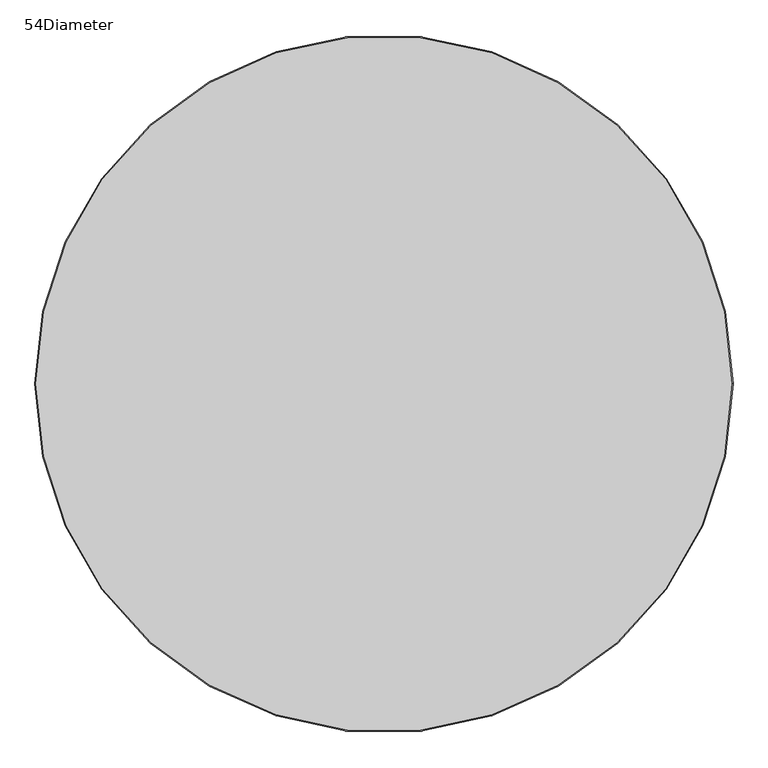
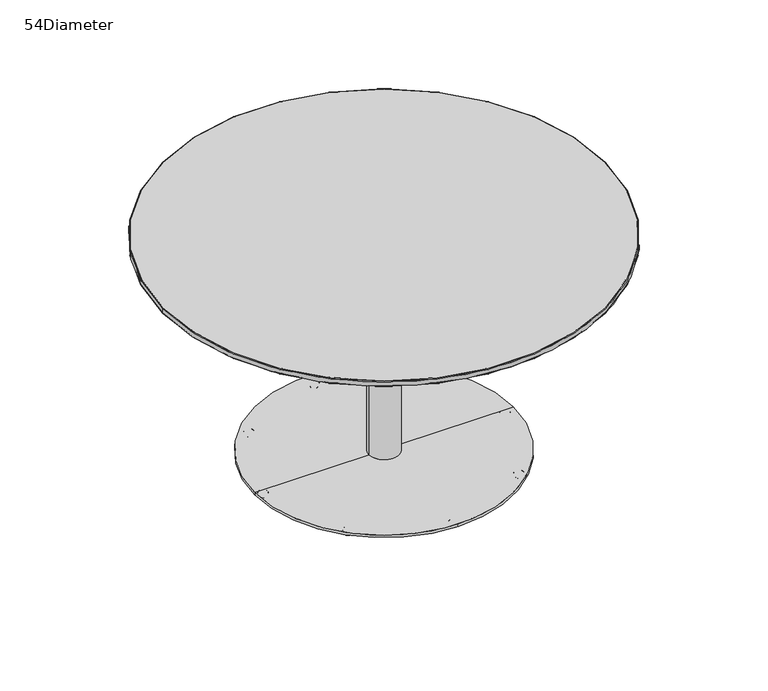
"""IFC4 building model written with IfcOpenShell, lengths in millimetres: furniture geometry, Coalesse_AM_Table_Conference_Montara650_WorkHeight_Round : 54Diameter."""

from ifc_helpers import new_model, si_unit, point, frame, origin, origin_with_axes, origin_2d, place, context, project, spatial, polyline, circle_curve, ellipse_curve, trimmed, segment, composite_curve, outline, extrude, source, transform, mapped, element, save
from ifc_brep_helpers import plane_surface, cylinder_surface, revolved_surface, advanced_brep


def furniture_54diameter_4dd13a8e(model_context):
    return source(origin(), model_context, "Body", "SolidModel", [
        advanced_brep(
        [(265.1850578, -265.1850578, 0.0), (272.5277002, -272.5277002, 0.0), (257.8424153, -257.8424153, 0.0), (273.0742024, -273.0742024, 0.5718943), (257.2959132, -257.2959132, 0.5718943), (275.3733015, -275.3733015, 11.2068005), (254.9968141, -254.9968141, 11.2068005), (274.9582806, -274.9582806, 11.9999882), (255.4118349, -255.4118349, 11.9999882), (265.1850578, -265.1850578, 11.9999882)],
        [
            (0, 1),
            (1, 2, circle_curve(frame((265.1850578, -265.1850578, 0.0), z_axis=(0.0, 0.0, -1.0), x_axis=(0.7071067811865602, -0.7071067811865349, 0.0)), 10.3840645)),
            (2, 0),
            (2, 1, circle_curve(frame((265.1850578, -265.1850578, 0.0), z_axis=(0.0, 0.0, -1.0), x_axis=(0.7071067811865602, -0.7071067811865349, 0.0)), 10.3840645)),
            (1, 3, circle_curve(frame((272.5277002, -272.5277002, 0.8081846), z_axis=(-0.7071067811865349, -0.7071067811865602, 0.0), x_axis=(0.7071067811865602, -0.7071067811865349, 0.0)), 0.8081846)),
            (3, 4, circle_curve(frame((265.1850578, -265.1850578, 0.5718943), z_axis=(0.0, 0.0, -1.0), x_axis=(0.7071067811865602, -0.7071067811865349, 0.0)), 11.1569353)),
            (4, 2, circle_curve(frame((257.8424153, -257.8424153, 0.8081846), z_axis=(-0.7071067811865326, -0.7071067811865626, 0.0), x_axis=(-0.7071067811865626, 0.7071067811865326, 0.0)), 0.8081846)),
            (4, 3, circle_curve(frame((265.1850578, -265.1850578, 0.5718943), z_axis=(0.0, 0.0, -1.0), x_axis=(0.7071067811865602, -0.7071067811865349, 0.0)), 11.1569353)),
            (3, 5),
            (5, 6, circle_curve(frame((265.1850578, -265.1850578, 11.2068005), z_axis=(0.0, 0.0, -1.0), x_axis=(0.7071067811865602, -0.7071067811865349, 0.0)), 14.4083524)),
            (6, 4),
            (6, 5, circle_curve(frame((265.1850578, -265.1850578, 11.2068005), z_axis=(0.0, 0.0, -1.0), x_axis=(0.7071067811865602, -0.7071067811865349, 0.0)), 14.4083524)),
            (5, 7, circle_curve(frame((274.9582806, -274.9582806, 11.3862424), z_axis=(-0.7071067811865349, -0.7071067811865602, 0.0), x_axis=(0.7071067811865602, -0.7071067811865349, 0.0)), 0.6137458)),
            (7, 8, circle_curve(frame((265.1850578, -265.1850578, 11.9999882), z_axis=(0.0, 0.0, -1.0), x_axis=(0.7071067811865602, -0.7071067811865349, 0.0)), 13.8214243)),
            (8, 6, circle_curve(frame((255.4118349, -255.4118349, 11.3862424), z_axis=(-0.7071067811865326, -0.7071067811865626, 0.0), x_axis=(-0.7071067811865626, 0.7071067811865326, 0.0)), 0.6137458)),
            (8, 7, circle_curve(frame((265.1850578, -265.1850578, 11.9999882), z_axis=(0.0, 0.0, -1.0), x_axis=(0.7071067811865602, -0.7071067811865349, 0.0)), 13.8214243)),
            (7, 9),
            (9, 8),
        ],
        [
            plane_surface(frame((265.1850578, -265.1850578, 0.0), z_axis=(0.0, 0.0, -1.0000000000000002), x_axis=(0.7071067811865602, -0.7071067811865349, 0.0))),
            revolved_surface(trimmed(ellipse_curve(frame((272.5277002, -272.5277002, 0.8081846), z_axis=(0.7071067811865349, 0.7071067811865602, 0.0), x_axis=(0.7071067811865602, -0.7071067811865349, 0.0)), 0.8081846, 0.8081846), [point((273.0742024, -273.0742024, 0.5718943))], [point((272.5277002, -272.5277002, 0.0))], True, "CARTESIAN"), (265.1850578, -265.1850578, 12.2086845), (0.0, 0.0, -1.0)),
            revolved_surface(polyline([(275.3733015, -275.3733015, 11.2068005), (273.0742024, -273.0742024, 0.5718943)]), (265.1850578, -265.1850578, 12.2086845), (0.0, 0.0, -1.0)),
            revolved_surface(trimmed(ellipse_curve(frame((274.9582806, -274.9582806, 11.3862424), z_axis=(0.7071067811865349, 0.7071067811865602, 0.0), x_axis=(0.7071067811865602, -0.7071067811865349, 0.0)), 0.6137458, 0.6137458), [point((274.9582806, -274.9582806, 11.9999882))], [point((275.3733015, -275.3733015, 11.2068005))], True, "CARTESIAN"), (265.1850578, -265.1850578, 12.2086845), (0.0, 0.0, -1.0)),
            plane_surface(frame((265.1850578, -265.1850578, 11.9999882), z_axis=(0.0, 0.0, 1.0000000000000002), x_axis=(0.7071067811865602, -0.7071067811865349, 0.0))),
        ],
        [
            (0, [[1, 2, 3]]),
            (0, [[-3, 4, -1]]),
            (1, [[-2, 5, 6, 7]]),
            (1, [[-4, -7, 8, -5]]),
            (2, [[-6, 9, 10, 11]]),
            (2, [[-8, -11, 12, -9]]),
            (3, [[-10, 13, 14, 15]]),
            (3, [[-12, -15, 16, -13]]),
            (4, [[-14, 17, 18]]),
            (4, [[-16, -18, -17]]),
        ],
    ),
        advanced_brep(
        [(-257.8424153, -257.8424153, 0.0), (-272.5277002, -272.5277002, 0.0), (-265.1850578, -265.1850578, 0.0), (-257.2959132, -257.2959132, 0.5718943), (-273.0742024, -273.0742024, 0.5718943), (-254.9968141, -254.9968141, 11.2068005), (-275.3733015, -275.3733015, 11.2068005), (-255.4118349, -255.4118349, 11.9999882), (-274.9582806, -274.9582806, 11.9999882), (-265.1850578, -265.1850578, 11.9999882)],
        [
            (0, 1, circle_curve(frame((-265.1850578, -265.1850578, 0.0), z_axis=(0.0, 0.0, -1.0), x_axis=(-0.7071067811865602, -0.7071067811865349, 0.0)), 10.3840645)),
            (1, 2),
            (2, 0),
            (1, 0, circle_curve(frame((-265.1850578, -265.1850578, 0.0), z_axis=(0.0, 0.0, -1.0), x_axis=(-0.7071067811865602, -0.7071067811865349, 0.0)), 10.3840645)),
            (3, 4, circle_curve(frame((-265.1850578, -265.1850578, 0.5718943), z_axis=(0.0, 0.0, -1.0), x_axis=(-0.7071067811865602, -0.7071067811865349, 0.0)), 11.1569353)),
            (4, 1, circle_curve(frame((-272.5277002, -272.5277002, 0.8081846), z_axis=(0.7071067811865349, -0.7071067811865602, 0.0), x_axis=(-0.7071067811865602, -0.7071067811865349, 0.0)), 0.8081846)),
            (0, 3, circle_curve(frame((-257.8424153, -257.8424153, 0.8081846), z_axis=(0.7071067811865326, -0.7071067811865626, 0.0), x_axis=(0.7071067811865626, 0.7071067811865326, 0.0)), 0.8081846)),
            (4, 3, circle_curve(frame((-265.1850578, -265.1850578, 0.5718943), z_axis=(0.0, 0.0, -1.0), x_axis=(-0.7071067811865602, -0.7071067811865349, 0.0)), 11.1569353)),
            (5, 6, circle_curve(frame((-265.1850578, -265.1850578, 11.2068005), z_axis=(0.0, 0.0, -1.0), x_axis=(-0.7071067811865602, -0.7071067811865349, 0.0)), 14.4083524)),
            (6, 4),
            (3, 5),
            (6, 5, circle_curve(frame((-265.1850578, -265.1850578, 11.2068005), z_axis=(0.0, 0.0, -1.0), x_axis=(-0.7071067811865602, -0.7071067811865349, 0.0)), 14.4083524)),
            (7, 8, circle_curve(frame((-265.1850578, -265.1850578, 11.9999882), z_axis=(0.0, 0.0, -1.0), x_axis=(-0.7071067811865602, -0.7071067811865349, 0.0)), 13.8214243)),
            (8, 6, circle_curve(frame((-274.9582806, -274.9582806, 11.3862424), z_axis=(0.7071067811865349, -0.7071067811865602, 0.0), x_axis=(-0.7071067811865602, -0.7071067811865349, 0.0)), 0.6137458)),
            (5, 7, circle_curve(frame((-255.4118349, -255.4118349, 11.3862424), z_axis=(0.7071067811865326, -0.7071067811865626, 0.0), x_axis=(0.7071067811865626, 0.7071067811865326, 0.0)), 0.6137458)),
            (8, 7, circle_curve(frame((-265.1850578, -265.1850578, 11.9999882), z_axis=(0.0, 0.0, -1.0), x_axis=(-0.7071067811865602, -0.7071067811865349, 0.0)), 13.8214243)),
            (9, 8),
            (7, 9),
        ],
        [
            plane_surface(frame((-265.1850578, -265.1850578, 0.0), z_axis=(0.0, 0.0, -1.0000000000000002), x_axis=(-0.7071067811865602, -0.7071067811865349, 0.0))),
            revolved_surface(trimmed(ellipse_curve(frame((-272.5277002, -272.5277002, 0.8081846), z_axis=(-0.7071067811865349, 0.7071067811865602, 0.0), x_axis=(-0.7071067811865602, -0.7071067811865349, 0.0)), 0.8081846, 0.8081846), [point((-272.5277002, -272.5277002, 0.0))], [point((-273.0742024, -273.0742024, 0.5718943))], True, "CARTESIAN"), (-265.1850578, -265.1850578, 12.2086845), (0.0, 0.0, 1.0)),
            revolved_surface(polyline([(-273.0742024, -273.0742024, 0.5718943), (-275.3733015, -275.3733015, 11.2068005)]), (-265.1850578, -265.1850578, 12.2086845), (0.0, 0.0, 1.0)),
            revolved_surface(trimmed(ellipse_curve(frame((-274.9582806, -274.9582806, 11.3862424), z_axis=(-0.7071067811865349, 0.7071067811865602, 0.0), x_axis=(-0.7071067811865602, -0.7071067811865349, 0.0)), 0.6137458, 0.6137458), [point((-275.3733015, -275.3733015, 11.2068005))], [point((-274.9582806, -274.9582806, 11.9999882))], True, "CARTESIAN"), (-265.1850578, -265.1850578, 12.2086845), (0.0, 0.0, 1.0)),
            plane_surface(frame((-265.1850578, -265.1850578, 11.9999882), z_axis=(0.0, 0.0, 1.0000000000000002), x_axis=(-0.7071067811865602, -0.7071067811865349, 0.0))),
        ],
        [
            (0, [[1, 2, 3]]),
            (0, [[4, -3, -2]]),
            (1, [[5, 6, -1, 7]]),
            (1, [[8, -7, -4, -6]]),
            (2, [[9, 10, -5, 11]]),
            (2, [[12, -11, -8, -10]]),
            (3, [[13, 14, -9, 15]]),
            (3, [[16, -15, -12, -14]]),
            (4, [[17, -13, 18]]),
            (4, [[-18, -16, -17]]),
        ],
    ),
        advanced_brep(
        [(0.0, -364.6442407, 0.0), (0.0, -385.4123697, 0.0), (0.0, -375.0283052, 0.0), (0.0, -363.87137, 0.5718943), (0.0, -386.1852405, 0.5718943), (0.0, -360.6199529, 11.2068005), (0.0, -389.4366576, 11.2068005), (0.0, -361.2068809, 11.9999882), (0.0, -388.8497296, 11.9999882), (0.0, -375.0283052, 11.9999882)],
        [
            (0, 1, circle_curve(frame((0.0, -375.0283052, 0.0), z_axis=(0.0, 0.0, -1.0), x_axis=(0.0, -1.0, 0.0)), 10.3840645)),
            (1, 2),
            (2, 0),
            (1, 0, circle_curve(frame((0.0, -375.0283052, 0.0), z_axis=(0.0, 0.0, -1.0), x_axis=(0.0, -1.0, 0.0)), 10.3840645)),
            (3, 4, circle_curve(frame((0.0, -375.0283052, 0.5718943), z_axis=(0.0, 0.0, -1.0), x_axis=(0.0, -1.0, 0.0)), 11.1569353)),
            (4, 1, circle_curve(frame((0.0, -385.4123697, 0.8081846), z_axis=(1.0, 0.0, 0.0), x_axis=(0.0, -1.0, 0.0)), 0.8081846)),
            (0, 3, circle_curve(frame((0.0, -364.6442407, 0.8081846), z_axis=(1.0, 0.0, 0.0), x_axis=(0.0, 1.0, 0.0)), 0.8081846)),
            (4, 3, circle_curve(frame((0.0, -375.0283052, 0.5718943), z_axis=(0.0, 0.0, -1.0), x_axis=(0.0, -1.0, 0.0)), 11.1569353)),
            (5, 6, circle_curve(frame((0.0, -375.0283052, 11.2068005), z_axis=(0.0, 0.0, -1.0), x_axis=(0.0, -1.0, 0.0)), 14.4083524)),
            (6, 4),
            (3, 5),
            (6, 5, circle_curve(frame((0.0, -375.0283052, 11.2068005), z_axis=(0.0, 0.0, -1.0), x_axis=(0.0, -1.0, 0.0)), 14.4083524)),
            (7, 8, circle_curve(frame((0.0, -375.0283052, 11.9999882), z_axis=(0.0, 0.0, -1.0), x_axis=(0.0, -1.0, 0.0)), 13.8214243)),
            (8, 6, circle_curve(frame((0.0, -388.8497296, 11.3862424), z_axis=(1.0, 0.0, 0.0), x_axis=(0.0, -1.0, 0.0)), 0.6137458)),
            (5, 7, circle_curve(frame((0.0, -361.2068809, 11.3862424), z_axis=(1.0, 0.0, 0.0), x_axis=(0.0, 1.0, 0.0)), 0.6137458)),
            (8, 7, circle_curve(frame((0.0, -375.0283052, 11.9999882), z_axis=(0.0, 0.0, -1.0), x_axis=(0.0, -1.0, 0.0)), 13.8214243)),
            (9, 8),
            (7, 9),
        ],
        [
            plane_surface(frame((0.0, -375.0283052, 0.0), z_axis=(0.0, 0.0, -1.0), x_axis=(0.0, -1.0, 0.0))),
            revolved_surface(trimmed(ellipse_curve(frame((0.0, -385.4123697, 0.8081846), z_axis=(-1.0, 0.0, 0.0), x_axis=(0.0, -1.0, 0.0)), 0.8081846, 0.8081846), [point((0.0, -385.4123697, 0.0))], [point((0.0, -386.1852405, 0.5718943))], True, "CARTESIAN"), (0.0, -375.0283052, 12.2086845), (0.0, 0.0, 1.0)),
            revolved_surface(polyline([(0.0, -386.1852405, 0.5718943), (0.0, -389.4366576, 11.2068005)]), (0.0, -375.0283052, 12.2086845), (0.0, 0.0, 1.0)),
            revolved_surface(trimmed(ellipse_curve(frame((0.0, -388.8497296, 11.3862424), z_axis=(-1.0, 0.0, 0.0), x_axis=(0.0, -1.0, 0.0)), 0.6137458, 0.6137458), [point((0.0, -389.4366576, 11.2068005))], [point((0.0, -388.8497296, 11.9999882))], True, "CARTESIAN"), (0.0, -375.0283052, 12.2086845), (0.0, 0.0, 1.0)),
            plane_surface(frame((0.0, -375.0283052, 11.9999882), z_axis=(0.0, 0.0, 1.0), x_axis=(0.0, -1.0, 0.0))),
        ],
        [
            (0, [[1, 2, 3]]),
            (0, [[4, -3, -2]]),
            (1, [[5, 6, -1, 7]]),
            (1, [[8, -7, -4, -6]]),
            (2, [[9, 10, -5, 11]]),
            (2, [[12, -11, -8, -10]]),
            (3, [[13, 14, -9, 15]]),
            (3, [[16, -15, -12, -14]]),
            (4, [[17, -13, 18]]),
            (4, [[-18, -16, -17]]),
        ],
    ),
        advanced_brep(
        [(364.6442407, 0.0, 0.0), (385.4123697, 0.0, 0.0), (375.0283052, 0.0, 0.0), (363.87137, 0.0, 0.5718943), (386.1852405, 0.0, 0.5718943), (360.6199529, 0.0, 11.2068005), (389.4366576, 0.0, 11.2068005), (361.2068809, 0.0, 11.9999882), (388.8497296, 0.0, 11.9999882), (375.0283052, 0.0, 11.9999882)],
        [
            (0, 1, circle_curve(frame((375.0283052, 0.0, 0.0), z_axis=(0.0, 0.0, -1.0), x_axis=(1.0, 0.0, 0.0)), 10.3840645)),
            (1, 2),
            (2, 0),
            (1, 0, circle_curve(frame((375.0283052, 0.0, 0.0), z_axis=(0.0, 0.0, -1.0), x_axis=(1.0, 0.0, 0.0)), 10.3840645)),
            (3, 4, circle_curve(frame((375.0283052, 0.0, 0.5718943), z_axis=(0.0, 0.0, -1.0), x_axis=(1.0, 0.0, 0.0)), 11.1569353)),
            (4, 1, circle_curve(frame((385.4123697, 0.0, 0.8081846), z_axis=(0.0, 1.0, 0.0), x_axis=(1.0, 0.0, 0.0)), 0.8081846)),
            (0, 3, circle_curve(frame((364.6442407, 0.0, 0.8081846), z_axis=(0.0, 1.0, 0.0), x_axis=(-1.0, 0.0, 0.0)), 0.8081846)),
            (4, 3, circle_curve(frame((375.0283052, 0.0, 0.5718943), z_axis=(0.0, 0.0, -1.0), x_axis=(1.0, 0.0, 0.0)), 11.1569353)),
            (5, 6, circle_curve(frame((375.0283052, 0.0, 11.2068005), z_axis=(0.0, 0.0, -1.0), x_axis=(1.0, 0.0, 0.0)), 14.4083524)),
            (6, 4),
            (3, 5),
            (6, 5, circle_curve(frame((375.0283052, 0.0, 11.2068005), z_axis=(0.0, 0.0, -1.0), x_axis=(1.0, 0.0, 0.0)), 14.4083524)),
            (7, 8, circle_curve(frame((375.0283052, 0.0, 11.9999882), z_axis=(0.0, 0.0, -1.0), x_axis=(1.0, 0.0, 0.0)), 13.8214243)),
            (8, 6, circle_curve(frame((388.8497296, 0.0, 11.3862424), z_axis=(0.0, 1.0, 0.0), x_axis=(1.0, 0.0, 0.0)), 0.6137458)),
            (5, 7, circle_curve(frame((361.2068809, 0.0, 11.3862424), z_axis=(0.0, 1.0, 0.0), x_axis=(-1.0, 0.0, 0.0)), 0.6137458)),
            (8, 7, circle_curve(frame((375.0283052, 0.0, 11.9999882), z_axis=(0.0, 0.0, -1.0), x_axis=(1.0, 0.0, 0.0)), 13.8214243)),
            (9, 8),
            (7, 9),
        ],
        [
            plane_surface(frame((375.0283052, 0.0, 0.0), z_axis=(0.0, 0.0, -1.0), x_axis=(1.0, 0.0, 0.0))),
            revolved_surface(trimmed(ellipse_curve(frame((385.4123697, 0.0, 0.8081846), z_axis=(0.0, -1.0, 0.0), x_axis=(1.0, 0.0, 0.0)), 0.8081846, 0.8081846), [point((385.4123697, 0.0, 0.0))], [point((386.1852405, 0.0, 0.5718943))], True, "CARTESIAN"), (375.0283052, 0.0, 12.2086845), (0.0, 0.0, 1.0)),
            revolved_surface(polyline([(386.1852405, 0.0, 0.5718943), (389.4366576, 0.0, 11.2068005)]), (375.0283052, 0.0, 12.2086845), (0.0, 0.0, 1.0)),
            revolved_surface(trimmed(ellipse_curve(frame((388.8497296, 0.0, 11.3862424), z_axis=(0.0, -1.0, 0.0), x_axis=(1.0, 0.0, 0.0)), 0.6137458, 0.6137458), [point((389.4366576, 0.0, 11.2068005))], [point((388.8497296, 0.0, 11.9999882))], True, "CARTESIAN"), (375.0283052, 0.0, 12.2086845), (0.0, 0.0, 1.0)),
            plane_surface(frame((375.0283052, 0.0, 11.9999882), z_axis=(0.0, 0.0, 1.0), x_axis=(1.0, 0.0, 0.0))),
        ],
        [
            (0, [[1, 2, 3]]),
            (0, [[4, -3, -2]]),
            (1, [[5, 6, -1, 7]]),
            (1, [[8, -7, -4, -6]]),
            (2, [[9, 10, -5, 11]]),
            (2, [[12, -11, -8, -10]]),
            (3, [[13, 14, -9, 15]]),
            (3, [[16, -15, -12, -14]]),
            (4, [[17, -13, 18]]),
            (4, [[-18, -16, -17]]),
        ],
    ),
        advanced_brep(
        [(257.8424153, 257.8424153, 0.0), (272.5277002, 272.5277002, 0.0), (265.1850578, 265.1850578, 0.0), (257.2959132, 257.2959132, 0.5718943), (273.0742024, 273.0742024, 0.5718943), (254.9968141, 254.9968141, 11.2068005), (275.3733015, 275.3733015, 11.2068005), (255.4118349, 255.4118349, 11.9999882), (274.9582806, 274.9582806, 11.9999882), (265.1850578, 265.1850578, 11.9999882)],
        [
            (0, 1, circle_curve(frame((265.1850578, 265.1850578, 0.0), z_axis=(0.0, 0.0, -1.0), x_axis=(0.7071067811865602, 0.7071067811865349, 0.0)), 10.3840645)),
            (1, 2),
            (2, 0),
            (1, 0, circle_curve(frame((265.1850578, 265.1850578, 0.0), z_axis=(0.0, 0.0, -1.0), x_axis=(0.7071067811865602, 0.7071067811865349, 0.0)), 10.3840645)),
            (3, 4, circle_curve(frame((265.1850578, 265.1850578, 0.5718943), z_axis=(0.0, 0.0, -1.0), x_axis=(0.7071067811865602, 0.7071067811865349, 0.0)), 11.1569353)),
            (4, 1, circle_curve(frame((272.5277002, 272.5277002, 0.8081846), z_axis=(-0.7071067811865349, 0.7071067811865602, 0.0), x_axis=(0.7071067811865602, 0.7071067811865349, 0.0)), 0.8081846)),
            (0, 3, circle_curve(frame((257.8424153, 257.8424153, 0.8081846), z_axis=(-0.7071067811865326, 0.7071067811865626, 0.0), x_axis=(-0.7071067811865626, -0.7071067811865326, 0.0)), 0.8081846)),
            (4, 3, circle_curve(frame((265.1850578, 265.1850578, 0.5718943), z_axis=(0.0, 0.0, -1.0), x_axis=(0.7071067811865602, 0.7071067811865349, 0.0)), 11.1569353)),
            (5, 6, circle_curve(frame((265.1850578, 265.1850578, 11.2068005), z_axis=(0.0, 0.0, -1.0), x_axis=(0.7071067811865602, 0.7071067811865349, 0.0)), 14.4083524)),
            (6, 4),
            (3, 5),
            (6, 5, circle_curve(frame((265.1850578, 265.1850578, 11.2068005), z_axis=(0.0, 0.0, -1.0), x_axis=(0.7071067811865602, 0.7071067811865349, 0.0)), 14.4083524)),
            (7, 8, circle_curve(frame((265.1850578, 265.1850578, 11.9999882), z_axis=(0.0, 0.0, -1.0), x_axis=(0.7071067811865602, 0.7071067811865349, 0.0)), 13.8214243)),
            (8, 6, circle_curve(frame((274.9582806, 274.9582806, 11.3862424), z_axis=(-0.7071067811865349, 0.7071067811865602, 0.0), x_axis=(0.7071067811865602, 0.7071067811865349, 0.0)), 0.6137458)),
            (5, 7, circle_curve(frame((255.4118349, 255.4118349, 11.3862424), z_axis=(-0.7071067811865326, 0.7071067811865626, 0.0), x_axis=(-0.7071067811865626, -0.7071067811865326, 0.0)), 0.6137458)),
            (8, 7, circle_curve(frame((265.1850578, 265.1850578, 11.9999882), z_axis=(0.0, 0.0, -1.0), x_axis=(0.7071067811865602, 0.7071067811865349, 0.0)), 13.8214243)),
            (9, 8),
            (7, 9),
        ],
        [
            plane_surface(frame((265.1850578, 265.1850578, 0.0), z_axis=(0.0, 0.0, -1.0000000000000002), x_axis=(0.7071067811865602, 0.7071067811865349, 0.0))),
            revolved_surface(trimmed(ellipse_curve(frame((272.5277002, 272.5277002, 0.8081846), z_axis=(0.7071067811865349, -0.7071067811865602, 0.0), x_axis=(0.7071067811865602, 0.7071067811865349, 0.0)), 0.8081846, 0.8081846), [point((272.5277002, 272.5277002, 0.0))], [point((273.0742024, 273.0742024, 0.5718943))], True, "CARTESIAN"), (265.1850578, 265.1850578, 12.2086845), (0.0, 0.0, 1.0)),
            revolved_surface(polyline([(273.0742024, 273.0742024, 0.5718943), (275.3733015, 275.3733015, 11.2068005)]), (265.1850578, 265.1850578, 12.2086845), (0.0, 0.0, 1.0)),
            revolved_surface(trimmed(ellipse_curve(frame((274.9582806, 274.9582806, 11.3862424), z_axis=(0.7071067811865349, -0.7071067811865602, 0.0), x_axis=(0.7071067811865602, 0.7071067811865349, 0.0)), 0.6137458, 0.6137458), [point((275.3733015, 275.3733015, 11.2068005))], [point((274.9582806, 274.9582806, 11.9999882))], True, "CARTESIAN"), (265.1850578, 265.1850578, 12.2086845), (0.0, 0.0, 1.0)),
            plane_surface(frame((265.1850578, 265.1850578, 11.9999882), z_axis=(0.0, 0.0, 1.0000000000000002), x_axis=(0.7071067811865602, 0.7071067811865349, 0.0))),
        ],
        [
            (0, [[1, 2, 3]]),
            (0, [[4, -3, -2]]),
            (1, [[5, 6, -1, 7]]),
            (1, [[8, -7, -4, -6]]),
            (2, [[9, 10, -5, 11]]),
            (2, [[12, -11, -8, -10]]),
            (3, [[13, 14, -9, 15]]),
            (3, [[16, -15, -12, -14]]),
            (4, [[17, -13, 18]]),
            (4, [[-18, -16, -17]]),
        ],
    ),
        advanced_brep(
        [(-265.1850578, 265.1850578, 0.0), (-272.5277002, 272.5277002, 0.0), (-257.8424153, 257.8424153, 0.0), (-273.0742024, 273.0742024, 0.5718943), (-257.2959132, 257.2959132, 0.5718943), (-275.3733015, 275.3733015, 11.2068005), (-254.9968141, 254.9968141, 11.2068005), (-274.9582806, 274.9582806, 11.9999882), (-255.4118349, 255.4118349, 11.9999882), (-265.1850578, 265.1850578, 11.9999882)],
        [
            (0, 1),
            (1, 2, circle_curve(frame((-265.1850578, 265.1850578, 0.0), z_axis=(0.0, 0.0, -1.0), x_axis=(-0.7071067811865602, 0.7071067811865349, 0.0)), 10.3840645)),
            (2, 0),
            (2, 1, circle_curve(frame((-265.1850578, 265.1850578, 0.0), z_axis=(0.0, 0.0, -1.0), x_axis=(-0.7071067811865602, 0.7071067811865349, 0.0)), 10.3840645)),
            (1, 3, circle_curve(frame((-272.5277002, 272.5277002, 0.8081846), z_axis=(0.7071067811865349, 0.7071067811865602, 0.0), x_axis=(-0.7071067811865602, 0.7071067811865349, 0.0)), 0.8081846)),
            (3, 4, circle_curve(frame((-265.1850578, 265.1850578, 0.5718943), z_axis=(0.0, 0.0, -1.0), x_axis=(-0.7071067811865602, 0.7071067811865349, 0.0)), 11.1569353)),
            (4, 2, circle_curve(frame((-257.8424153, 257.8424153, 0.8081846), z_axis=(0.7071067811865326, 0.7071067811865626, 0.0), x_axis=(0.7071067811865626, -0.7071067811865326, 0.0)), 0.8081846)),
            (4, 3, circle_curve(frame((-265.1850578, 265.1850578, 0.5718943), z_axis=(0.0, 0.0, -1.0), x_axis=(-0.7071067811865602, 0.7071067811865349, 0.0)), 11.1569353)),
            (3, 5),
            (5, 6, circle_curve(frame((-265.1850578, 265.1850578, 11.2068005), z_axis=(0.0, 0.0, -1.0), x_axis=(-0.7071067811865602, 0.7071067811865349, 0.0)), 14.4083524)),
            (6, 4),
            (6, 5, circle_curve(frame((-265.1850578, 265.1850578, 11.2068005), z_axis=(0.0, 0.0, -1.0), x_axis=(-0.7071067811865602, 0.7071067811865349, 0.0)), 14.4083524)),
            (5, 7, circle_curve(frame((-274.9582806, 274.9582806, 11.3862424), z_axis=(0.7071067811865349, 0.7071067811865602, 0.0), x_axis=(-0.7071067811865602, 0.7071067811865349, 0.0)), 0.6137458)),
            (7, 8, circle_curve(frame((-265.1850578, 265.1850578, 11.9999882), z_axis=(0.0, 0.0, -1.0), x_axis=(-0.7071067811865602, 0.7071067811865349, 0.0)), 13.8214243)),
            (8, 6, circle_curve(frame((-255.4118349, 255.4118349, 11.3862424), z_axis=(0.7071067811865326, 0.7071067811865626, 0.0), x_axis=(0.7071067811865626, -0.7071067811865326, 0.0)), 0.6137458)),
            (8, 7, circle_curve(frame((-265.1850578, 265.1850578, 11.9999882), z_axis=(0.0, 0.0, -1.0), x_axis=(-0.7071067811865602, 0.7071067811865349, 0.0)), 13.8214243)),
            (7, 9),
            (9, 8),
        ],
        [
            plane_surface(frame((-265.1850578, 265.1850578, 0.0), z_axis=(0.0, 0.0, -1.0000000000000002), x_axis=(-0.7071067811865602, 0.7071067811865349, 0.0))),
            revolved_surface(trimmed(ellipse_curve(frame((-272.5277002, 272.5277002, 0.8081846), z_axis=(-0.7071067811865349, -0.7071067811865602, 0.0), x_axis=(-0.7071067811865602, 0.7071067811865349, 0.0)), 0.8081846, 0.8081846), [point((-273.0742024, 273.0742024, 0.5718943))], [point((-272.5277002, 272.5277002, 0.0))], True, "CARTESIAN"), (-265.1850578, 265.1850578, 12.2086845), (0.0, 0.0, -1.0)),
            revolved_surface(polyline([(-275.3733015, 275.3733015, 11.2068005), (-273.0742024, 273.0742024, 0.5718943)]), (-265.1850578, 265.1850578, 12.2086845), (0.0, 0.0, -1.0)),
            revolved_surface(trimmed(ellipse_curve(frame((-274.9582806, 274.9582806, 11.3862424), z_axis=(-0.7071067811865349, -0.7071067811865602, 0.0), x_axis=(-0.7071067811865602, 0.7071067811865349, 0.0)), 0.6137458, 0.6137458), [point((-274.9582806, 274.9582806, 11.9999882))], [point((-275.3733015, 275.3733015, 11.2068005))], True, "CARTESIAN"), (-265.1850578, 265.1850578, 12.2086845), (0.0, 0.0, -1.0)),
            plane_surface(frame((-265.1850578, 265.1850578, 11.9999882), z_axis=(0.0, 0.0, 1.0000000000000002), x_axis=(-0.7071067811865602, 0.7071067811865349, 0.0))),
        ],
        [
            (0, [[1, 2, 3]]),
            (0, [[-3, 4, -1]]),
            (1, [[-2, 5, 6, 7]]),
            (1, [[-4, -7, 8, -5]]),
            (2, [[-6, 9, 10, 11]]),
            (2, [[-8, -11, 12, -9]]),
            (3, [[-10, 13, 14, 15]]),
            (3, [[-12, -15, 16, -13]]),
            (4, [[-14, 17, 18]]),
            (4, [[-16, -18, -17]]),
        ],
    ),
        advanced_brep(
        [(0.0, 375.0283052, 0.0), (0.0, 385.4123697, 0.0), (0.0, 364.6442407, 0.0), (0.0, 386.1852405, 0.5718943), (0.0, 363.87137, 0.5718943), (0.0, 389.4366576, 11.2068005), (0.0, 360.6199529, 11.2068005), (0.0, 388.8497296, 11.9999882), (0.0, 361.2068809, 11.9999882), (0.0, 375.0283052, 11.9999882)],
        [
            (0, 1),
            (1, 2, circle_curve(frame((0.0, 375.0283052, 0.0), z_axis=(0.0, 0.0, -1.0), x_axis=(0.0, 1.0, 0.0)), 10.3840645)),
            (2, 0),
            (2, 1, circle_curve(frame((0.0, 375.0283052, 0.0), z_axis=(0.0, 0.0, -1.0), x_axis=(0.0, 1.0, 0.0)), 10.3840645)),
            (1, 3, circle_curve(frame((0.0, 385.4123697, 0.8081846), z_axis=(1.0, 0.0, 0.0), x_axis=(0.0, 1.0, 0.0)), 0.8081846)),
            (3, 4, circle_curve(frame((0.0, 375.0283052, 0.5718943), z_axis=(0.0, 0.0, -1.0), x_axis=(0.0, 1.0, 0.0)), 11.1569353)),
            (4, 2, circle_curve(frame((0.0, 364.6442407, 0.8081846), z_axis=(1.0, 0.0, 0.0), x_axis=(0.0, -1.0, 0.0)), 0.8081846)),
            (4, 3, circle_curve(frame((0.0, 375.0283052, 0.5718943), z_axis=(0.0, 0.0, -1.0), x_axis=(0.0, 1.0, 0.0)), 11.1569353)),
            (3, 5),
            (5, 6, circle_curve(frame((0.0, 375.0283052, 11.2068005), z_axis=(0.0, 0.0, -1.0), x_axis=(0.0, 1.0, 0.0)), 14.4083524)),
            (6, 4),
            (6, 5, circle_curve(frame((0.0, 375.0283052, 11.2068005), z_axis=(0.0, 0.0, -1.0), x_axis=(0.0, 1.0, 0.0)), 14.4083524)),
            (5, 7, circle_curve(frame((0.0, 388.8497296, 11.3862424), z_axis=(1.0, 0.0, 0.0), x_axis=(0.0, 1.0, 0.0)), 0.6137458)),
            (7, 8, circle_curve(frame((0.0, 375.0283052, 11.9999882), z_axis=(0.0, 0.0, -1.0), x_axis=(0.0, 1.0, 0.0)), 13.8214243)),
            (8, 6, circle_curve(frame((0.0, 361.2068809, 11.3862424), z_axis=(1.0, 0.0, 0.0), x_axis=(0.0, -1.0, 0.0)), 0.6137458)),
            (8, 7, circle_curve(frame((0.0, 375.0283052, 11.9999882), z_axis=(0.0, 0.0, -1.0), x_axis=(0.0, 1.0, 0.0)), 13.8214243)),
            (7, 9),
            (9, 8),
        ],
        [
            plane_surface(frame((0.0, 375.0283052, 0.0), z_axis=(0.0, 0.0, -1.0), x_axis=(0.0, 1.0, 0.0))),
            revolved_surface(trimmed(ellipse_curve(frame((0.0, 385.4123697, 0.8081846), z_axis=(-1.0, 0.0, 0.0), x_axis=(0.0, 1.0, 0.0)), 0.8081846, 0.8081846), [point((0.0, 386.1852405, 0.5718943))], [point((0.0, 385.4123697, 0.0))], True, "CARTESIAN"), (0.0, 375.0283052, 12.2086845), (0.0, 0.0, -1.0)),
            revolved_surface(polyline([(0.0, 389.4366576, 11.2068005), (0.0, 386.1852405, 0.5718943)]), (0.0, 375.0283052, 12.2086845), (0.0, 0.0, -1.0)),
            revolved_surface(trimmed(ellipse_curve(frame((0.0, 388.8497296, 11.3862424), z_axis=(-1.0, 0.0, 0.0), x_axis=(0.0, 1.0, 0.0)), 0.6137458, 0.6137458), [point((0.0, 388.8497296, 11.9999882))], [point((0.0, 389.4366576, 11.2068005))], True, "CARTESIAN"), (0.0, 375.0283052, 12.2086845), (0.0, 0.0, -1.0)),
            plane_surface(frame((0.0, 375.0283052, 11.9999882), z_axis=(0.0, 0.0, 1.0), x_axis=(0.0, 1.0, 0.0))),
        ],
        [
            (0, [[1, 2, 3]]),
            (0, [[-3, 4, -1]]),
            (1, [[-2, 5, 6, 7]]),
            (1, [[-4, -7, 8, -5]]),
            (2, [[-6, 9, 10, 11]]),
            (2, [[-8, -11, 12, -9]]),
            (3, [[-10, 13, 14, 15]]),
            (3, [[-12, -15, 16, -13]]),
            (4, [[-14, 17, 18]]),
            (4, [[-16, -18, -17]]),
        ],
    ),
        advanced_brep(
        [(-375.0283052, 0.0, 0.0), (-385.4123697, 0.0, 0.0), (-364.6442407, 0.0, 0.0), (-386.1852405, 0.0, 0.5718943), (-363.87137, 0.0, 0.5718943), (-389.4366576, 0.0, 11.2068005), (-360.6199529, 0.0, 11.2068005), (-388.8497296, 0.0, 11.9999882), (-361.2068809, 0.0, 11.9999882), (-375.0283052, 0.0, 11.9999882)],
        [
            (0, 1),
            (1, 2, circle_curve(frame((-375.0283052, 0.0, 0.0), z_axis=(0.0, 0.0, -1.0), x_axis=(-1.0, 0.0, 0.0)), 10.3840645)),
            (2, 0),
            (2, 1, circle_curve(frame((-375.0283052, 0.0, 0.0), z_axis=(0.0, 0.0, -1.0), x_axis=(-1.0, 0.0, 0.0)), 10.3840645)),
            (1, 3, circle_curve(frame((-385.4123697, 0.0, 0.8081846), z_axis=(0.0, 1.0, 0.0), x_axis=(-1.0, 0.0, 0.0)), 0.8081846)),
            (3, 4, circle_curve(frame((-375.0283052, 0.0, 0.5718943), z_axis=(0.0, 0.0, -1.0), x_axis=(-1.0, 0.0, 0.0)), 11.1569353)),
            (4, 2, circle_curve(frame((-364.6442407, 0.0, 0.8081846), z_axis=(0.0, 1.0, 0.0), x_axis=(1.0, 0.0, 0.0)), 0.8081846)),
            (4, 3, circle_curve(frame((-375.0283052, 0.0, 0.5718943), z_axis=(0.0, 0.0, -1.0), x_axis=(-1.0, 0.0, 0.0)), 11.1569353)),
            (3, 5),
            (5, 6, circle_curve(frame((-375.0283052, 0.0, 11.2068005), z_axis=(0.0, 0.0, -1.0), x_axis=(-1.0, 0.0, 0.0)), 14.4083524)),
            (6, 4),
            (6, 5, circle_curve(frame((-375.0283052, 0.0, 11.2068005), z_axis=(0.0, 0.0, -1.0), x_axis=(-1.0, 0.0, 0.0)), 14.4083524)),
            (5, 7, circle_curve(frame((-388.8497296, 0.0, 11.3862424), z_axis=(0.0, 1.0, 0.0), x_axis=(-1.0, 0.0, 0.0)), 0.6137458)),
            (7, 8, circle_curve(frame((-375.0283052, 0.0, 11.9999882), z_axis=(0.0, 0.0, -1.0), x_axis=(-1.0, 0.0, 0.0)), 13.8214243)),
            (8, 6, circle_curve(frame((-361.2068809, 0.0, 11.3862424), z_axis=(0.0, 1.0, 0.0), x_axis=(1.0, 0.0, 0.0)), 0.6137458)),
            (8, 7, circle_curve(frame((-375.0283052, 0.0, 11.9999882), z_axis=(0.0, 0.0, -1.0), x_axis=(-1.0, 0.0, 0.0)), 13.8214243)),
            (7, 9),
            (9, 8),
        ],
        [
            plane_surface(frame((-375.0283052, 0.0, 0.0), z_axis=(0.0, 0.0, -1.0), x_axis=(-1.0, 0.0, 0.0))),
            revolved_surface(trimmed(ellipse_curve(frame((-385.4123697, 0.0, 0.8081846), z_axis=(0.0, -1.0, 0.0), x_axis=(-1.0, 0.0, 0.0)), 0.8081846, 0.8081846), [point((-386.1852405, 0.0, 0.5718943))], [point((-385.4123697, 0.0, 0.0))], True, "CARTESIAN"), (-375.0283052, 0.0, 12.2086845), (0.0, 0.0, -1.0)),
            revolved_surface(polyline([(-389.4366576, 0.0, 11.2068005), (-386.1852405, 0.0, 0.5718943)]), (-375.0283052, 0.0, 12.2086845), (0.0, 0.0, -1.0)),
            revolved_surface(trimmed(ellipse_curve(frame((-388.8497296, 0.0, 11.3862424), z_axis=(0.0, -1.0, 0.0), x_axis=(-1.0, 0.0, 0.0)), 0.6137458, 0.6137458), [point((-388.8497296, 0.0, 11.9999882))], [point((-389.4366576, 0.0, 11.2068005))], True, "CARTESIAN"), (-375.0283052, 0.0, 12.2086845), (0.0, 0.0, -1.0)),
            plane_surface(frame((-375.0283052, 0.0, 11.9999882), z_axis=(0.0, 0.0, 1.0), x_axis=(-1.0, 0.0, 0.0))),
        ],
        [
            (0, [[1, 2, 3]]),
            (0, [[-3, 4, -1]]),
            (1, [[-2, 5, 6, 7]]),
            (1, [[-4, -7, 8, -5]]),
            (2, [[-6, 9, 10, 11]]),
            (2, [[-8, -11, 12, -9]]),
            (3, [[-10, 13, 14, 15]]),
            (3, [[-12, -15, 16, -13]]),
            (4, [[-14, 17, 18]]),
            (4, [[-16, -18, -17]]),
        ],
    ),
        advanced_brep(
        [(224.5135601, 0.0, 690.755027), (-224.5135601, 0.0, 690.755027), (-300.298348, 0.0, 690.755027), (300.298348, 0.0, 690.755027), (85.7580854, 0.0, 674.9837029), (-85.7580854, 0.0, 674.9837029), (54.875485, 0.0, 674.9837029), (-54.875485, 0.0, 674.9837029), (47.0120828, 0.0, 19.9999965), (-47.0120828, 0.0, 19.9999965), (-47.0120828, 0.0, 686.7852036), (47.0120828, 0.0, 686.7852036), (401.1092005, 0.0, 19.9999965), (-401.1092005, 0.0, 19.9999965), (401.1092005, 0.0, 11.9999882), (-401.1092005, 0.0, 11.9999882), (0.0, 0.0, 11.9999882), (300.298348, 0.0, 693.930027), (-300.298348, 0.0, 693.930027), (0.0, 0.0, 693.930027), (50.8136087, 0.0, 676.4383874), (-50.8136087, 0.0, 676.4383874), (49.174834, 0.0, 686.7852036), (-49.174834, 0.0, 686.7852036)],
        [
            (0, 1, circle_curve(frame((0.0, 0.0, 690.755027), z_axis=(0.0, 0.0, 1.0), x_axis=(-1.0, 0.0, 0.0)), 224.5135601)),
            (1, 2),
            (2, 3, circle_curve(frame((0.0, 0.0, 690.755027), z_axis=(0.0, 0.0, -1.0), x_axis=(-1.0, 0.0, 0.0)), 300.298348)),
            (3, 0),
            (1, 0, circle_curve(frame((0.0, 0.0, 690.755027), z_axis=(0.0, 0.0, 1.0), x_axis=(-1.0, 0.0, 0.0)), 224.5135601)),
            (3, 2, circle_curve(frame((0.0, 0.0, 690.755027), z_axis=(0.0, 0.0, -1.0), x_axis=(-1.0, 0.0, 0.0)), 300.298348)),
            (4, 5, circle_curve(frame((0.0, 0.0, 674.9837029), z_axis=(0.0, 0.0, 1.0), x_axis=(-1.0, 0.0, 0.0)), 85.7580854)),
            (5, 1),
            (0, 4),
            (5, 4, circle_curve(frame((0.0, 0.0, 674.9837029), z_axis=(0.0, 0.0, 1.0), x_axis=(-1.0, 0.0, 0.0)), 85.7580854)),
            (6, 7, circle_curve(frame((0.0, 0.0, 674.9837029), z_axis=(0.0, 0.0, 1.0), x_axis=(-1.0, 0.0, 0.0)), 54.875485)),
            (7, 5),
            (4, 6),
            (7, 6, circle_curve(frame((0.0, 0.0, 674.9837029), z_axis=(0.0, 0.0, 1.0), x_axis=(-1.0, 0.0, 0.0)), 54.875485)),
            (8, 9, circle_curve(frame((0.0, 0.0, 19.9999965), z_axis=(0.0, 0.0, 1.0), x_axis=(-1.0, 0.0, 0.0)), 47.0120828)),
            (9, 10),
            (10, 11, circle_curve(frame((0.0, 0.0, 686.7852036), z_axis=(0.0, 0.0, -1.0), x_axis=(-1.0, 0.0, 0.0)), 47.0120828)),
            (11, 8),
            (9, 8, circle_curve(frame((0.0, 0.0, 19.9999965), z_axis=(0.0, 0.0, 1.0), x_axis=(-1.0, 0.0, 0.0)), 47.0120828)),
            (11, 10, circle_curve(frame((0.0, 0.0, 686.7852036), z_axis=(0.0, 0.0, -1.0), x_axis=(-1.0, 0.0, 0.0)), 47.0120828)),
            (12, 13, circle_curve(frame((0.0, 0.0, 19.9999965), z_axis=(0.0, 0.0, 1.0), x_axis=(-1.0, 0.0, 0.0)), 401.1092005)),
            (13, 9),
            (8, 12),
            (13, 12, circle_curve(frame((0.0, 0.0, 19.9999965), z_axis=(0.0, 0.0, 1.0), x_axis=(-1.0, 0.0, 0.0)), 401.1092005)),
            (14, 15, circle_curve(frame((0.0, 0.0, 11.9999882), z_axis=(0.0, 0.0, 1.0), x_axis=(-1.0, 0.0, 0.0)), 401.1092005)),
            (15, 13),
            (12, 14),
            (15, 14, circle_curve(frame((0.0, 0.0, 11.9999882), z_axis=(0.0, 0.0, 1.0), x_axis=(-1.0, 0.0, 0.0)), 401.1092005)),
            (16, 15),
            (14, 16),
            (17, 18, circle_curve(frame((0.0, 0.0, 693.930027), z_axis=(0.0, 0.0, 1.0), x_axis=(-1.0, 0.0, 0.0)), 300.298348)),
            (18, 19),
            (19, 17),
            (18, 17, circle_curve(frame((0.0, 0.0, 693.930027), z_axis=(0.0, 0.0, 1.0), x_axis=(-1.0, 0.0, 0.0)), 300.298348)),
            (2, 18),
            (17, 3),
            (20, 21, circle_curve(frame((0.0, 0.0, 676.4383874), z_axis=(0.0, 0.0, 1.0), x_axis=(-1.0, 0.0, 0.0)), 50.8136087)),
            (21, 7),
            (6, 20),
            (21, 20, circle_curve(frame((0.0, 0.0, 676.4383874), z_axis=(0.0, 0.0, 1.0), x_axis=(-1.0, 0.0, 0.0)), 50.8136087)),
            (22, 23, circle_curve(frame((0.0, 0.0, 686.7852036), z_axis=(0.0, 0.0, 1.0), x_axis=(-1.0, 0.0, 0.0)), 49.174834)),
            (23, 21),
            (20, 22),
            (23, 22, circle_curve(frame((0.0, 0.0, 686.7852036), z_axis=(0.0, 0.0, 1.0), x_axis=(-1.0, 0.0, 0.0)), 49.174834)),
            (10, 23),
            (22, 11),
        ],
        [
            plane_surface(frame((0.0, 0.0, 690.755027), z_axis=(0.0, 0.0, -1.0), x_axis=(-1.0, 0.0, 0.0))),
            revolved_surface(polyline([(-224.5135601, 0.0, 690.755027), (-85.7580854, 0.0, 674.9837029)]), (0.0, 0.0, 439.0999965), (0.0, 0.0, -1.0)),
            plane_surface(frame((0.0, 0.0, 674.9837029), z_axis=(0.0, 0.0, -1.0), x_axis=(-1.0, 0.0, 0.0))),
            cylinder_surface(frame((0.0, 0.0, 439.0999965), z_axis=(0.0, 0.0, -1.0), x_axis=(-1.0, 0.0, 0.0)), 47.0120828),
            plane_surface(frame((0.0, 0.0, 19.9999965), z_axis=(0.0, 0.0, 1.0), x_axis=(-1.0, 0.0, 0.0))),
            cylinder_surface(frame((0.0, 0.0, 439.0999965), z_axis=(0.0, 0.0, -1.0), x_axis=(-1.0, 0.0, 0.0)), 401.1092005),
            plane_surface(frame((0.0, 0.0, 11.9999882), z_axis=(0.0, 0.0, -1.0), x_axis=(-1.0, 0.0, 0.0))),
            plane_surface(frame((0.0, 0.0, 693.930027), z_axis=(0.0, 0.0, 1.0), x_axis=(-1.0, 0.0, 0.0))),
            cylinder_surface(frame((0.0, 0.0, 439.0999965), z_axis=(0.0, 0.0, -1.0), x_axis=(-1.0, 0.0, 0.0)), 300.298348),
            revolved_surface(polyline([(-54.875485, 0.0, 674.9837029), (-50.8136087, 0.0, 676.4383874)]), (0.0, 0.0, 439.0999965), (0.0, 0.0, -1.0)),
            revolved_surface(polyline([(-50.8136087, 0.0, 676.4383874), (-49.174834, 0.0, 686.7852036)]), (0.0, 0.0, 439.0999965), (0.0, 0.0, -1.0)),
            plane_surface(frame((0.0, 0.0, 686.7852036), z_axis=(0.0, 0.0, -1.0), x_axis=(-1.0, 0.0, 0.0))),
        ],
        [
            (0, [[1, 2, 3, 4]]),
            (0, [[5, -4, 6, -2]]),
            (1, [[7, 8, -1, 9]]),
            (1, [[10, -9, -5, -8]]),
            (2, [[11, 12, -7, 13]]),
            (2, [[14, -13, -10, -12]]),
            (3, [[15, 16, 17, 18]]),
            (3, [[19, -18, 20, -16]]),
            (4, [[21, 22, -15, 23]]),
            (4, [[24, -23, -19, -22]]),
            (5, [[25, 26, -21, 27]]),
            (5, [[28, -27, -24, -26]]),
            (6, [[29, -25, 30]]),
            (6, [[-30, -28, -29]]),
            (7, [[31, 32, 33]]),
            (7, [[34, -33, -32]]),
            (8, [[-3, 35, -31, 36]]),
            (8, [[-6, -36, -34, -35]]),
            (9, [[37, 38, -11, 39]]),
            (9, [[40, -39, -14, -38]]),
            (10, [[41, 42, -37, 43]]),
            (10, [[44, -43, -40, -42]]),
            (11, [[-17, 45, -41, 46]]),
            (11, [[-20, -46, -44, -45]]),
        ],
    ),
        advanced_brep(
        [(-609.6, 0.0, 693.930027), (609.6, 0.0, 693.930027), (-683.768, 0.0, 706.195891), (683.768, 0.0, 706.195891)],
        [
            (0, 1, circle_curve(frame((0.0, 0.0, 693.930027), z_axis=(0.0, 0.0, -1.0), x_axis=(-1.0, 0.0, 0.0)), 609.6)),
            (1, 0, circle_curve(frame((0.0, 0.0, 693.930027), z_axis=(0.0, 0.0, -1.0), x_axis=(1.0, 0.0, 0.0)), 609.6)),
            (2, 3, circle_curve(frame((0.0, 0.0, 706.195891), z_axis=(0.0, 0.0, 1.0), x_axis=(1.0, 0.0, 0.0)), 683.768)),
            (3, 2, circle_curve(frame((0.0, 0.0, 706.195891), z_axis=(0.0, 0.0, 1.0), x_axis=(-1.0, 0.0, 0.0)), 683.768)),
            (2, 0),
            (1, 3),
        ],
        [
            plane_surface(frame((0.0, 0.0, 693.930027), z_axis=(0.0, 0.0, -1.0), x_axis=(0.0, -1.0, 0.0))),
            plane_surface(frame((0.0, 0.0, 706.195891), z_axis=(0.0, 0.0, 1.0), x_axis=(0.0, -1.0, 0.0))),
            revolved_surface(polyline([(609.5999998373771, 0.0, 693.930027), (683.768, 0.0, 706.195891)]), (0.0, 0.0, 593.1147067), (0.0, 0.0, 1.0)),
            revolved_surface(polyline([(-609.5999998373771, 0.0, 693.930027), (-683.768, 0.0, 706.195891)]), (0.0, 0.0, 593.1147067), (0.0, 0.0, 1.0)),
        ],
        [
            (0, [[1, 2]]),
            (1, [[3, 4]]),
            (2, [[-3, 5, -2, 6]]),
            (3, [[-4, -6, -1, -5]]),
        ],
    ),
        extrude(outline(composite_curve([segment(trimmed(circle_curve(origin_2d(), 683.768), [point((-683.768, 0.0))], [point((683.768, 0.0))], False, "CARTESIAN"), True, "CONTINUOUS"), segment(trimmed(circle_curve(origin_2d(), 683.768), [point((683.768, 0.0))], [point((-683.768, 0.0))], False, "CARTESIAN"), True, "CONTINUOUS")], self_intersect=False)), frame((0.0, 0.0, 706.195891), z_axis=(0.0, 0.0, 1.0), x_axis=(1.0, 0.0, 0.0)), (0.0, 0.0, 1.0), 17.704109),
        advanced_brep(
        [(685.8438665, 0.0, 708.1278467), (-685.8438665, 0.0, 708.1278467), (-683.768, 0.0, 706.195891), (683.768, 0.0, 706.195891), (685.8438665, 0.0, 721.8999283), (-685.8438665, 0.0, 721.8999283), (683.768, 0.0, 723.9), (-683.768, 0.0, 723.9)],
        [
            (0, 1, circle_curve(frame((0.0, 0.0, 708.1278467), z_axis=(0.0, 0.0, -1.0), x_axis=(-1.0, 0.0, 0.0)), 685.8438665)),
            (1, 2, circle_curve(frame((-683.9069224, 0.0, 708.1278467), z_axis=(0.0, -1.0, 0.0), x_axis=(1.0, 0.0, 0.0)), 1.9369441)),
            (2, 3, circle_curve(frame((0.0, 0.0, 706.195891), z_axis=(0.0, 0.0, 1.0), x_axis=(-1.0, 0.0, 0.0)), 683.768)),
            (3, 0, circle_curve(frame((683.9069224, 0.0, 708.1278467), z_axis=(0.0, -1.0, 0.0), x_axis=(-1.0, 0.0, 0.0)), 1.9369441)),
            (4, 5, circle_curve(frame((0.0, 0.0, 721.8999283), z_axis=(0.0, 0.0, -1.0), x_axis=(-1.0, 0.0, 0.0)), 685.8438665)),
            (5, 1),
            (0, 4),
            (6, 7, circle_curve(frame((0.0, 0.0, 723.9), z_axis=(0.0, 0.0, -1.0), x_axis=(-1.0, 0.0, 0.0)), 683.768)),
            (7, 5, circle_curve(frame((-683.8424111, 0.0, 721.8999283), z_axis=(0.0, -1.0, 0.0), x_axis=(1.0, 0.0, 0.0)), 2.0014554)),
            (4, 6, circle_curve(frame((683.8424111, 0.0, 721.8999283), z_axis=(0.0, -1.0, 0.0), x_axis=(-1.0, 0.0, 0.0)), 2.0014554)),
            (2, 7),
            (6, 3),
            (1, 0, circle_curve(frame((0.0, 0.0, 708.1278467), z_axis=(0.0, 0.0, -1.0), x_axis=(1.0, 0.0, 0.0)), 685.8438665)),
            (3, 2, circle_curve(frame((0.0, 0.0, 706.195891), z_axis=(0.0, 0.0, 1.0), x_axis=(1.0, 0.0, 0.0)), 683.768)),
            (5, 4, circle_curve(frame((0.0, 0.0, 721.8999283), z_axis=(0.0, 0.0, -1.0), x_axis=(1.0, 0.0, 0.0)), 685.8438665)),
            (7, 6, circle_curve(frame((0.0, 0.0, 723.9), z_axis=(0.0, 0.0, -1.0), x_axis=(1.0, 0.0, 0.0)), 683.768)),
        ],
        [
            revolved_surface(trimmed(ellipse_curve(frame((-683.9069224, 0.0, 708.1278467), z_axis=(0.0, 1.0, 0.0), x_axis=(1.0, 0.0, 0.0)), 1.9369441, 1.9369441), [point((-683.768, 0.0, 706.195891))], [point((-685.8438665, 0.0, 708.1278467))], True, "CARTESIAN"), (0.0, 0.0, 0.0), (0.0, 0.0, 1.0)),
            cylinder_surface(frame((0.0, 0.0, 0.0), z_axis=(0.0, 0.0, 1.0), x_axis=(-1.0, 0.0, 0.0)), 685.8438665),
            revolved_surface(trimmed(ellipse_curve(frame((-683.8424111, 0.0, 721.8999283), z_axis=(0.0, 1.0, 0.0), x_axis=(1.0, 0.0, 0.0)), 2.0014554, 2.0014554), [point((-685.8438665, 0.0, 721.8999283))], [point((-683.768, 0.0, 723.9))], True, "CARTESIAN"), (0.0, 0.0, 0.0), (0.0, 0.0, 1.0)),
            revolved_surface(polyline([(-683.768, 0.0, 723.9), (-683.768, 0.0, 706.195891)]), (0.0, 0.0, 0.0), (0.0, 0.0, 1.0)),
            revolved_surface(trimmed(ellipse_curve(frame((683.9069224, 0.0, 708.1278467), z_axis=(0.0, -1.0, 0.0), x_axis=(-1.0, 0.0, 0.0)), 1.9369441, 1.9369441), [point((683.768, 0.0, 706.195891))], [point((685.8438665, 0.0, 708.1278467))], True, "CARTESIAN"), (0.0, 0.0, 0.0), (0.0, 0.0, 1.0)),
            cylinder_surface(origin_with_axes(), 685.8438665),
            revolved_surface(trimmed(ellipse_curve(frame((683.8424111, 0.0, 721.8999283), z_axis=(0.0, -1.0, 0.0), x_axis=(-1.0, 0.0, 0.0)), 2.0014554, 2.0014554), [point((685.8438665, 0.0, 721.8999283))], [point((683.768, 0.0, 723.9))], True, "CARTESIAN"), (0.0, 0.0, 0.0), (0.0, 0.0, 1.0)),
            revolved_surface(polyline([(683.768, 0.0, 723.9), (683.768, 0.0, 706.195891)]), (0.0, 0.0, 0.0), (0.0, 0.0, 1.0)),
        ],
        [
            (0, [[1, 2, 3, 4]]),
            (1, [[5, 6, -1, 7]]),
            (2, [[8, 9, -5, 10]]),
            (3, [[-3, 11, -8, 12]]),
            (4, [[13, -4, 14, -2]]),
            (5, [[15, -7, -13, -6]]),
            (6, [[16, -10, -15, -9]]),
            (7, [[-14, -12, -16, -11]]),
        ],
    ),
    ])


if __name__ == "__main__":
    model = new_model("IFC4")
    model_context = context("Model", 3, world=origin())
    ifc_project = project(units=[si_unit("LENGTHUNIT", "METRE", prefix="MILLI")], contexts=[model_context])
    site = spatial("IfcSite", under=ifc_project)
    building = spatial("IfcBuilding", under=site)
    placement = place(None, origin())
    furniture_54diameter_shape = furniture_54diameter_4dd13a8e(model_context)
    element("IfcFurniture", 1, ObjectType="Coalesse_AM_Table_Conference_Montara650_WorkHeight_Round : 54Diameter", at=placement, inside=building, context=model_context, shape_type="MappedRepresentation", body=[
        mapped(furniture_54diameter_shape, transform((0.0, 0.0, 0.0), x_axis=(1.0, 0.0, 0.0), y_axis=(0.0, 1.0, 0.0), z_axis=(0.0, 0.0, 1.0))),
    ])
    save(model, "model.ifc")
